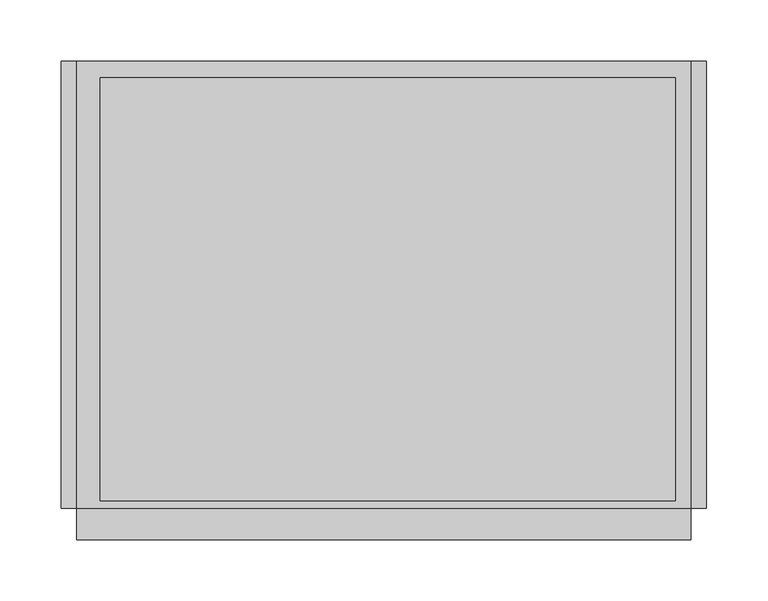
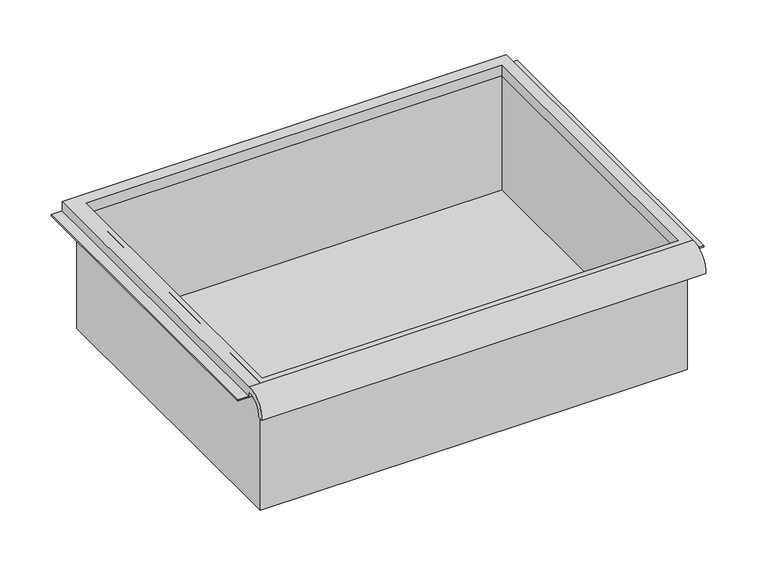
"""IFC4 building model written with IfcOpenShell, lengths in millimetres: furniture geometry."""

from ifc_helpers import new_model, si_unit, frame, origin, place, context, project, spatial, polyline, circle_curve, faceted_brep, source, transform, mapped, element, save
from ifc_brep_helpers import plane_surface, cylinder_surface, revolved_surface, advanced_brep


def furniture_28e7d052(model_context):
    return source(origin(), model_context, "Body", "SolidModel", [
        advanced_brep(
        [(263.7474999, -195.297482, 357.9849518), (263.7474999, -188.9125, 357.9849518), (263.7474999, -169.8625, 376.246425), (263.7474999, -169.8625, 369.8964246), (263.7474999, 195.2625, 369.8964246), (263.7474999, 195.2625, 382.596425), (263.7474999, -169.8625, 382.596425), (-237.9025001, -195.297482, 357.9849518), (-237.9025001, -169.8625, 382.596425), (-237.9025001, 195.2625, 382.596425), (-237.9025001, 195.2625, 369.8964246), (-237.9025001, -169.8625, 369.8964246), (-237.9025001, -169.8625, 376.246425), (-237.9025001, -188.9125, 357.9849518), (251.0474878, 181.9275, 369.8964246), (-218.8095642, 181.9275, 369.8964246), (-218.8095642, -163.5125, 369.8964246), (251.0474878, -163.5125, 369.8964246), (-218.8095642, 181.9275, 382.596425), (251.0474878, 181.9275, 382.596425), (251.0474878, -163.5125, 382.596425), (-218.8095642, -163.5125, 382.596425)],
        [
            (0, 1),
            (1, 2, circle_curve(frame((263.7474999, -172.3404634, 359.7643622), z_axis=(-1.0, 0.0, 0.0), x_axis=(0.0, 1.0, 0.0)), 16.6672942)),
            (2, 3),
            (3, 4),
            (4, 5),
            (5, 6),
            (6, 0, circle_curve(frame((263.7474999, -172.4601678, 359.8322522), z_axis=(1.0, 0.0, 0.0), x_axis=(0.0, 1.0, 0.0)), 22.9119061)),
            (7, 8, circle_curve(frame((-237.9025001, -172.4601678, 359.8322522), z_axis=(-1.0, 0.0, 0.0), x_axis=(0.0, 1.0, 0.0)), 22.9119061)),
            (8, 9),
            (9, 10),
            (10, 11),
            (11, 12),
            (12, 13, circle_curve(frame((-237.9025001, -172.3404634, 359.7643622), z_axis=(1.0, 0.0, 0.0), x_axis=(0.0, 1.0, 0.0)), 16.6672942)),
            (13, 7),
            (0, 7),
            (13, 1),
            (12, 2),
            (11, 3),
            (10, 4),
            (14, 15),
            (15, 16),
            (16, 17),
            (17, 14),
            (9, 5),
            (8, 6),
            (18, 19),
            (19, 20),
            (20, 21),
            (21, 18),
            (14, 19),
            (18, 15),
            (21, 16),
            (20, 17),
        ],
        [
            plane_surface(frame((263.7474999, -195.297482, 357.9849518), z_axis=(1.0, 0.0, 0.0), x_axis=(0.0, 1.0, 0.0))),
            plane_surface(frame((-237.9025001, -195.297482, 357.9849518), z_axis=(-1.0, 0.0, 0.0), x_axis=(0.0, -1.0, 0.0))),
            plane_surface(frame((263.7474999, -195.297482, 357.9849518), z_axis=(0.0, 0.0, -1.0), x_axis=(-1.0, 0.0, 0.0))),
            revolved_surface(polyline([(-237.9025001, -155.67316920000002, 359.7643622), (263.7474999, -155.67316920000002, 359.7643622)]), (-237.9025001, -172.3404634, 359.7643622), (-1.0, 0.0, 0.0)),
            plane_surface(frame((263.7474999, -169.8625, 376.246425), z_axis=(0.0, -1.0, 0.0), x_axis=(-1.0, 0.0, 0.0))),
            plane_surface(frame((263.7474999, -169.8625, 369.8964246), z_axis=(0.0, 0.0, -1.0), x_axis=(-1.0, 0.0, 0.0))),
            plane_surface(frame((263.7474999, 195.2625, 369.8964246), z_axis=(0.0, 1.0, 0.0), x_axis=(-1.0, 0.0, 0.0))),
            plane_surface(frame((263.7474999, 195.2625, 382.596425), z_axis=(0.0, 0.0, 1.0), x_axis=(-1.0, 0.0, 0.0))),
            cylinder_surface(frame((-237.9025001, -172.4601678, 359.8322522), z_axis=(1.0, 0.0, 0.0), x_axis=(0.0, 1.0, 0.0)), 22.9119061),
            plane_surface(frame((251.0474878, 181.9275, 382.596425), z_axis=(0.0, -1.0, 0.0), x_axis=(0.0, 0.0, -1.0))),
            plane_surface(frame((-218.8095642, 181.9275, 382.596425), z_axis=(1.0, 0.0, 0.0), x_axis=(0.0, 0.0, -1.0))),
            plane_surface(frame((-218.8095642, -163.5125, 382.596425), z_axis=(0.0, 1.0, 0.0), x_axis=(0.0, 0.0, -1.0))),
            plane_surface(frame((251.0474878, -163.5125, 382.596425), z_axis=(-1.0, 0.0, 0.0), x_axis=(0.0, 0.0, -1.0))),
        ],
        [
            (0, [[1, 2, 3, 4, 5, 6, 7]]),
            (1, [[8, 9, 10, 11, 12, 13, 14]]),
            (2, [[-1, 15, -14, 16]]),
            (3, [[-2, -16, -13, 17]]),
            (4, [[-3, -17, -12, 18]]),
            (5, [[-4, -18, -11, 19], [20, 21, 22, 23]]),
            (6, [[-5, -19, -10, 24]]),
            (7, [[-6, -24, -9, 25], [26, 27, 28, 29]]),
            (8, [[-7, -25, -8, -15]]),
            (9, [[30, -26, 31, -20]]),
            (10, [[-31, -29, 32, -21]]),
            (11, [[-32, -28, 33, -22]]),
            (12, [[-30, -23, -33, -27]]),
        ],
    ),
        faceted_brep([(-225.2025001, -169.8625, 230.196425), (257.3974878, -169.8625, 230.196425), (257.3974878, -169.8625, 382.596425), (-225.2025001, -169.8625, 382.596425), (-225.2025001, 188.9125, 230.196425), (-225.2025001, 188.9125, 382.596425), (257.3974878, 188.9125, 382.596425), (257.3974878, 188.9125, 230.196425), (-218.8095642, 181.9275, 382.596425), (251.0474878, 181.9275, 382.596425), (251.0474878, -163.5125, 382.596425), (-218.8095642, -163.5125, 382.596425), (251.0474878, 181.9275, 233.371425), (-218.8095642, 181.9275, 233.371425), (-218.8095642, -163.5125, 233.371425), (251.0474878, -163.5125, 233.371425)], [[[0, 1, 2, 3]], [[4, 5, 6, 7]], [[1, 0, 4, 7]], [[2, 1, 7, 6]], [[3, 2, 6, 5], [8, 9, 10, 11]], [[0, 3, 5, 4]], [[12, 13, 14, 15]], [[13, 12, 9, 8]], [[14, 13, 8, 11]], [[15, 14, 11, 10]], [[12, 15, 10, 9]]]),
        faceted_brep([(-250.6025001, 195.2625, 369.8964246), (-250.6025001, 195.2625, 371.4839246), (-231.5525001, 195.2625, 371.4839246), (-231.5525001, 195.2625, 369.8964246), (-250.6025001, -169.8625, 369.8964246), (-231.5525001, -169.8625, 369.8964246), (-231.5525001, -169.8625, 371.4839246), (-250.6025001, -169.8625, 371.4839246)], [[[0, 1, 2, 3]], [[4, 5, 6, 7]], [[1, 0, 4, 7]], [[2, 1, 7, 6]], [[3, 2, 6, 5]], [[0, 3, 5, 4]]]),
        faceted_brep([(276.4474999, 195.2625, 369.8964246), (263.7474999, 195.2625, 369.8964246), (263.7474999, 195.2625, 371.4839246), (276.4474999, 195.2625, 371.4839246), (276.4474999, -169.8625, 369.8964246), (276.4474999, -169.8625, 371.4839246), (263.7474999, -169.8625, 371.4839246), (263.7474999, -169.8625, 369.8964246)], [[[0, 1, 2, 3]], [[4, 5, 6, 7]], [[1, 0, 4, 7]], [[2, 1, 7, 6]], [[3, 2, 6, 5]], [[0, 3, 5, 4]]]),
    ])


if __name__ == "__main__":
    model = new_model("IFC4")
    model_context = context("Model", 3, world=origin())
    ifc_project = project(units=[si_unit("LENGTHUNIT", "METRE", prefix="MILLI")], contexts=[model_context])
    site = spatial("IfcSite", under=ifc_project)
    building = spatial("IfcBuilding", under=site)
    placement = place(None, origin())
    furniture_shape = furniture_28e7d052(model_context)
    element("IfcFurniture", 1, ObjectType="HermanMiller_Carts_CT501_Drawer : 6\"H x 15\"D x 20\"W", at=placement, inside=building, context=model_context, shape_type="MappedRepresentation", body=[
        mapped(furniture_shape, transform((0.0, 0.0, 0.0), x_axis=(1.0, 0.0, 0.0), y_axis=(0.0, 1.0, 0.0), z_axis=(0.0, 0.0, 1.0))),
    ])
    save(model, "model.ifc")
